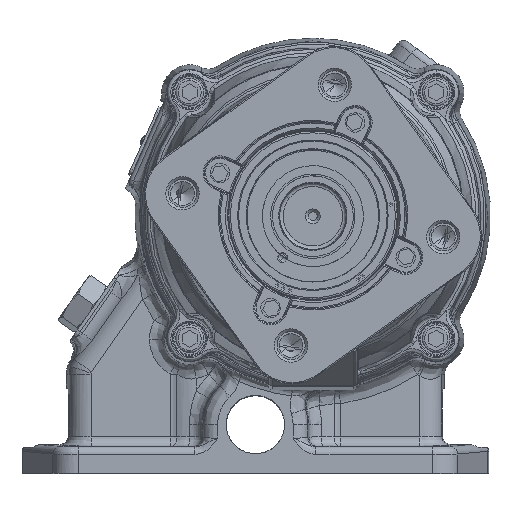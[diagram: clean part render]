
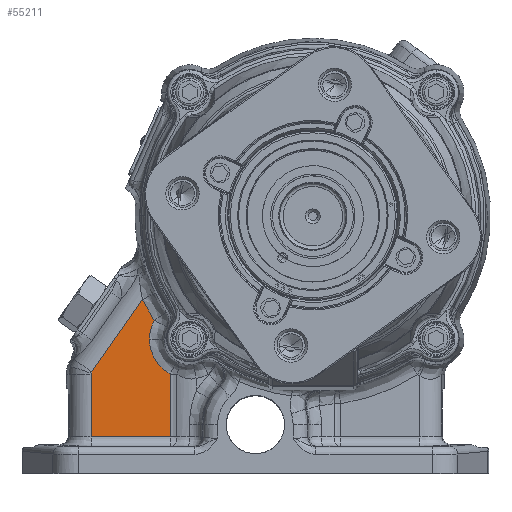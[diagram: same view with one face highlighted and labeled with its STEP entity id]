
A CAD part, top view. The second image highlights one B-rep face of the part: STEP entity #55211.
In plain terms, the highlighted planar face has unit normal (0, 0, 1).
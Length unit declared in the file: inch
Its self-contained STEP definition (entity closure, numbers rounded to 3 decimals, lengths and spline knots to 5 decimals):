
#357 = CARTESIAN_POINT ( 'NONE',  ( -1.83816, 0.01261, 1.3875 ) ) ;
#2108 = CARTESIAN_POINT ( 'NONE',  ( -2.82333, -0.64831, 1.3875 ) ) ;
#2316 = CARTESIAN_POINT ( 'NONE',  ( -2.71359, 0.83497, 1.3875 ) ) ;
#3372 = DIRECTION ( 'NONE',  ( 0.859, 0.512, 0. ) ) ;
#3811 = ORIENTED_EDGE ( 'NONE', *, *, #21036, .T. ) ;
#4970 = LINE ( 'NONE', #138873, #29792 ) ;
#9115 = VERTEX_POINT ( 'NONE', #74080 ) ;
#9637 = VERTEX_POINT ( 'NONE', #29657 ) ;
#12391 = CARTESIAN_POINT ( 'NONE',  ( -2.15985, 0.1856, 1.3875 ) ) ;
#14271 = EDGE_CURVE ( 'NONE', #104783, #68160, #105265, .T. ) ;
#14323 = CARTESIAN_POINT ( 'NONE',  ( -2.82333, -0.64831, 1.3875 ) ) ;
#15901 = ORIENTED_EDGE ( 'NONE', *, *, #14271, .T. ) ;
#16469 = VECTOR ( 'NONE', #113004, 39.37008 ) ;
#20830 = DIRECTION ( 'NONE',  ( 0., 0., 1. ) ) ;
#21036 = EDGE_CURVE ( 'NONE', #68160, #120318, #132699, .T. ) ;
#27363 = AXIS2_PLACEMENT_3D ( 'NONE', #81728, #20830, #157914 ) ;
#28433 = CARTESIAN_POINT ( 'NONE',  ( -2.27523, -1.59362, 1.3875 ) ) ;
#28914 = B_SPLINE_CURVE_WITH_KNOTS ( 'NONE', 3,
 ( #66073, #91692, #79642, #128585 ),
 .UNSPECIFIED., .F., .F.,
 ( 4, 4 ),
 ( 0., 1. ),
 .UNSPECIFIED. ) ;
#29657 = CARTESIAN_POINT ( 'NONE',  ( -1.67009, -0.00335, 1.3875 ) ) ;
#29792 = VECTOR ( 'NONE', #3372, 39.37008 ) ;
#31853 = CARTESIAN_POINT ( 'NONE',  ( -2.36601, 0.63873, 1.3875 ) ) ;
#32198 = EDGE_CURVE ( 'NONE', #9637, #104783, #96266, .T. ) ;
#32883 = PLANE ( 'NONE',  #27363 ) ;
#32888 = B_SPLINE_CURVE_WITH_KNOTS ( 'NONE', 3,
 ( #136193, #74430, #36039, #14323 ),
 .UNSPECIFIED., .F., .F.,
 ( 4, 4 ),
 ( 0., 1. ),
 .UNSPECIFIED. ) ;
#33680 = FACE_OUTER_BOUND ( 'NONE', #71199, .T. ) ;
#34091 = CARTESIAN_POINT ( 'NONE',  ( -1.69968, -0.00425, 1.3875 ) ) ;
#34880 = CARTESIAN_POINT ( 'NONE',  ( -1.84176, 0.01343, 1.3875 ) ) ;
#36039 = CARTESIAN_POINT ( 'NONE',  ( -2.82386, -0.65541, 1.3875 ) ) ;
#40019 = CARTESIAN_POINT ( 'NONE',  ( -2.48596, 0.69691, 1.3875 ) ) ;
#41220 = LINE ( 'NONE', #111253, #147156 ) ;
#43909 = CARTESIAN_POINT ( 'NONE',  ( -2.36326, 0.58363, 1.3875 ) ) ;
#44261 = ORIENTED_EDGE ( 'NONE', *, *, #32198, .T. ) ;
#45840 = CARTESIAN_POINT ( 'NONE',  ( -2.82165, -0.66952, 1.3875 ) ) ;
#46272 = CARTESIAN_POINT ( 'NONE',  ( -2.32198, 0.42411, 1.3875 ) ) ;
#48261 = ORIENTED_EDGE ( 'NONE', *, *, #106718, .F. ) ;
#48272 = LINE ( 'NONE', #146039, #106965 ) ;
#49299 = CARTESIAN_POINT ( 'NONE',  ( -2.14309, 0.16988, 1.3875 ) ) ;
#49519 = ORIENTED_EDGE ( 'NONE', *, *, #134813, .T. ) ;
#50107 = CARTESIAN_POINT ( 'NONE',  ( -2.36601, 0.63873, 1.3875 ) ) ;
#50951 = ORIENTED_EDGE ( 'NONE', *, *, #51194, .T. ) ;
#51194 = EDGE_CURVE ( 'NONE', #9115, #9637, #64108, .T. ) ;
#54563 = VERTEX_POINT ( 'NONE', #108520 ) ;
#55211 = ADVANCED_FACE ( 'NONE', ( #33680 ), #32883, .T. ) ;
#58264 = CARTESIAN_POINT ( 'NONE',  ( -2.27168, 0.32661, 1.3875 ) ) ;
#58807 = CARTESIAN_POINT ( 'NONE',  ( -2.27168, 0.32661, 1.3875 ) ) ;
#58912 = CARTESIAN_POINT ( 'NONE',  ( -2.04276, 0.09442, 1.3875 ) ) ;
#61012 = VERTEX_POINT ( 'NONE', #45840 ) ;
#61040 = DIRECTION ( 'NONE',  ( -0.074, -0.997, 0. ) ) ;
#61220 = CARTESIAN_POINT ( 'NONE',  ( -2.71359, 0.83497, 1.3875 ) ) ;
#61272 = CARTESIAN_POINT ( 'NONE',  ( -1.83274, 0.01141, 1.3875 ) ) ;
#63221 = CARTESIAN_POINT ( 'NONE',  ( -2.60181, 0.76232, 1.3875 ) ) ;
#64108 = LINE ( 'NONE', #90542, #16469 ) ;
#64510 = VERTEX_POINT ( 'NONE', #28433 ) ;
#66073 = CARTESIAN_POINT ( 'NONE',  ( -2.82165, -0.66952, 1.3875 ) ) ;
#68160 = VERTEX_POINT ( 'NONE', #50107 ) ;
#70124 = CARTESIAN_POINT ( 'NONE',  ( -1.962, 0.05013, 1.3875 ) ) ;
#71199 = EDGE_LOOP ( 'NONE', ( #140763, #110357, #50951, #44261, #15901, #3811, #49519, #48261, #116132 ) ) ;
#74080 = CARTESIAN_POINT ( 'NONE',  ( -1.12943, -0.91144, 1.3875 ) ) ;
#74430 = CARTESIAN_POINT ( 'NONE',  ( -2.82329, -0.66259, 1.3875 ) ) ;
#75610 = EDGE_CURVE ( 'NONE', #64510, #9115, #4970, .T. ) ;
#79642 = CARTESIAN_POINT ( 'NONE',  ( -2.81735, -0.68308, 1.3875 ) ) ;
#81728 = CARTESIAN_POINT ( 'NONE',  ( -0.9685, 3.51989, 1.3875 ) ) ;
#82913 = CARTESIAN_POINT ( 'NONE',  ( -2.15708, 0.18295, 1.3875 ) ) ;
#83703 = CARTESIAN_POINT ( 'NONE',  ( -2.27168, 0.32661, 1.3875 ) ) ;
#89632 = CARTESIAN_POINT ( 'NONE',  ( -2.36601, 0.63873, 1.3875 ) ) ;
#90542 = CARTESIAN_POINT ( 'NONE',  ( -3.03517, 2.28945, 1.3875 ) ) ;
#91692 = CARTESIAN_POINT ( 'NONE',  ( -2.82001, -0.6765, 1.3875 ) ) ;
#94969 = CARTESIAN_POINT ( 'NONE',  ( -2.12303, 0.15221, 1.3875 ) ) ;
#95102 = CARTESIAN_POINT ( 'NONE',  ( -2.3539, 0.52969, 1.3875 ) ) ;
#96266 = B_SPLINE_CURVE_WITH_KNOTS ( 'NONE', 3,
 ( #131080, #34091, #110138, #144691, #145482, #61272, #357, #34880, #146288, #122207, #70124, #58912, #147075, #94969, #49299, #109361, #82913, #12391, #119022, #98136, #134249, #83703 ),
 .UNSPECIFIED., .F., .F.,
 ( 4, 1, 1, 1, 1, 2, 2, 2, 1, 1, 1, 1, 2, 2, 4 ),
 ( 0., 0.125, 0.1875, 0.21875, 0.23437, 0.24219, 0.25, 0.5, 0.625, 0.6875, 0.71875, 0.73437, 0.74219, 0.75, 1. ),
 .UNSPECIFIED. ) ;
#98136 = CARTESIAN_POINT ( 'NONE',  ( -2.20502, 0.2296, 1.3875 ) ) ;
#102883 = VERTEX_POINT ( 'NONE', #2108 ) ;
#104783 = VERTEX_POINT ( 'NONE', #58807 ) ;
#105265 = B_SPLINE_CURVE_WITH_KNOTS ( 'NONE', 3,
 ( #58264, #156077, #46272, #95102, #43909, #31853 ),
 .UNSPECIFIED., .F., .F.,
 ( 4, 2, 4 ),
 ( 0., 0.5, 1. ),
 .UNSPECIFIED. ) ;
#106718 = EDGE_CURVE ( 'NONE', #61012, #102883, #32888, .T. ) ;
#106965 = VECTOR ( 'NONE', #61040, 39.37008 ) ;
#108520 = CARTESIAN_POINT ( 'NONE',  ( -2.81368, -0.68924, 1.3875 ) ) ;
#109361 = CARTESIAN_POINT ( 'NONE',  ( -2.15292, 0.17899, 1.3875 ) ) ;
#110138 = CARTESIAN_POINT ( 'NONE',  ( -1.74379, -0.00273, 1.3875 ) ) ;
#110357 = ORIENTED_EDGE ( 'NONE', *, *, #75610, .T. ) ;
#111253 = CARTESIAN_POINT ( 'NONE',  ( -4.18096, 1.60727, 1.3875 ) ) ;
#113004 = DIRECTION ( 'NONE',  ( -0.512, 0.859, 0. ) ) ;
#116132 = ORIENTED_EDGE ( 'NONE', *, *, #134129, .T. ) ;
#119022 = CARTESIAN_POINT ( 'NONE',  ( -2.16128, 0.18698, 1.3875 ) ) ;
#120318 = VERTEX_POINT ( 'NONE', #61220 ) ;
#122207 = CARTESIAN_POINT ( 'NONE',  ( -1.90515, 0.02832, 1.3875 ) ) ;
#128585 = CARTESIAN_POINT ( 'NONE',  ( -2.81368, -0.68924, 1.3875 ) ) ;
#131080 = CARTESIAN_POINT ( 'NONE',  ( -1.67009, -0.00335, 1.3875 ) ) ;
#132699 = B_SPLINE_CURVE_WITH_KNOTS ( 'NONE', 3,
 ( #89632, #40019, #63221, #2316 ),
 .UNSPECIFIED., .F., .F.,
 ( 4, 4 ),
 ( 0., 1. ),
 .UNSPECIFIED. ) ;
#134129 = EDGE_CURVE ( 'NONE', #61012, #54563, #28914, .T. ) ;
#134249 = CARTESIAN_POINT ( 'NONE',  ( -2.24138, 0.27572, 1.3875 ) ) ;
#134813 = EDGE_CURVE ( 'NONE', #120318, #102883, #48272, .T. ) ;
#136193 = CARTESIAN_POINT ( 'NONE',  ( -2.82165, -0.66952, 1.3875 ) ) ;
#138873 = CARTESIAN_POINT ( 'NONE',  ( 0.93723, 0.319, 1.3875 ) ) ;
#140763 = ORIENTED_EDGE ( 'NONE', *, *, #149384, .F. ) ;
#144691 = CARTESIAN_POINT ( 'NONE',  ( -1.79475, 0.00409, 1.3875 ) ) ;
#145482 = CARTESIAN_POINT ( 'NONE',  ( -1.8201, 0.00876, 1.3875 ) ) ;
#146039 = CARTESIAN_POINT ( 'NONE',  ( -2.71359, 0.83497, 1.3875 ) ) ;
#146288 = CARTESIAN_POINT ( 'NONE',  ( -1.8435, 0.01383, 1.3875 ) ) ;
#146610 = DIRECTION ( 'NONE',  ( -0.512, 0.859, 0. ) ) ;
#147075 = CARTESIAN_POINT ( 'NONE',  ( -2.0813, 0.11908, 1.3875 ) ) ;
#147156 = VECTOR ( 'NONE', #146610, 39.37008 ) ;
#149384 = EDGE_CURVE ( 'NONE', #64510, #54563, #41220, .T. ) ;
#156077 = CARTESIAN_POINT ( 'NONE',  ( -2.29989, 0.374, 1.3875 ) ) ;
#157914 = DIRECTION ( 'NONE',  ( -0.512, 0.859, 0. ) ) ;
